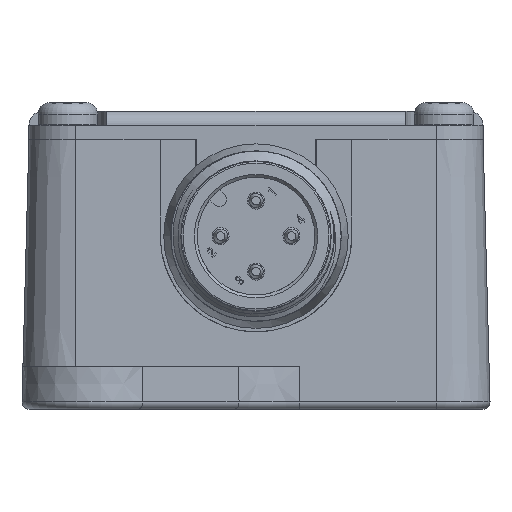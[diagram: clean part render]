
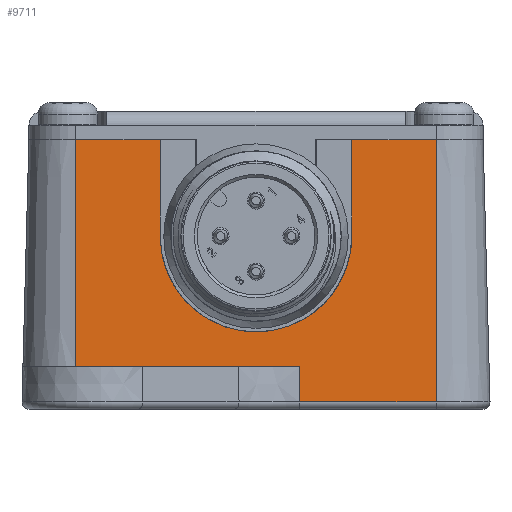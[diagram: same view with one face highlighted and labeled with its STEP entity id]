
A CAD part, left-side view. The second image highlights one B-rep face of the part: STEP entity #9711.
In plain terms, the highlighted planar face has unit normal (-1, 0, 0.026).
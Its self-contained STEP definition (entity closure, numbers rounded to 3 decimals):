
#26=ELLIPSE('',#10390,6.752,6.75);
#173=LINE('',#20466,#911);
#183=LINE('',#20501,#921);
#186=LINE('',#20509,#924);
#578=LINE('',#21569,#1316);
#589=LINE('',#21600,#1327);
#590=LINE('',#21602,#1328);
#597=LINE('',#21628,#1335);
#611=LINE('',#21659,#1349);
#615=LINE('',#21668,#1353);
#911=VECTOR('',#11625,1000.);
#921=VECTOR('',#11661,1000.);
#924=VECTOR('',#11670,1000.);
#1316=VECTOR('',#12682,1000.);
#1327=VECTOR('',#12709,1000.);
#1328=VECTOR('',#12712,1000.);
#1335=VECTOR('',#12735,1000.);
#1349=VECTOR('',#12773,1000.);
#1353=VECTOR('',#12787,1000.);
#1959=PLANE('',#10735);
#3709=ORIENTED_EDGE('',*,*,#5766,.T.);
#3710=ORIENTED_EDGE('',*,*,#5176,.T.);
#3711=ORIENTED_EDGE('',*,*,#5736,.T.);
#3712=ORIENTED_EDGE('',*,*,#5770,.F.);
#3713=ORIENTED_EDGE('',*,*,#5198,.F.);
#3714=ORIENTED_EDGE('',*,*,#5196,.F.);
#3715=ORIENTED_EDGE('',*,*,#5194,.F.);
#3716=ORIENTED_EDGE('',*,*,#5719,.F.);
#3717=ORIENTED_EDGE('',*,*,#5735,.T.);
#3718=ORIENTED_EDGE('',*,*,#5749,.T.);
#5176=EDGE_CURVE('',#6584,#6588,#173,.T.);
#5194=EDGE_CURVE('',#6594,#6601,#183,.F.);
#5196=EDGE_CURVE('',#6601,#6602,#26,.T.);
#5198=EDGE_CURVE('',#6602,#6596,#186,.F.);
#5719=EDGE_CURVE('',#6960,#6594,#578,.F.);
#5735=EDGE_CURVE('',#6960,#6972,#589,.T.);
#5736=EDGE_CURVE('',#6588,#6973,#590,.F.);
#5749=EDGE_CURVE('',#6972,#6983,#597,.F.);
#5766=EDGE_CURVE('',#6983,#6584,#611,.T.);
#5770=EDGE_CURVE('',#6596,#6973,#615,.F.);
#6584=VERTEX_POINT('',#20453);
#6588=VERTEX_POINT('',#20465);
#6594=VERTEX_POINT('',#20486);
#6596=VERTEX_POINT('',#20490);
#6601=VERTEX_POINT('',#20502);
#6602=VERTEX_POINT('',#20506);
#6960=VERTEX_POINT('',#21568);
#6972=VERTEX_POINT('',#21599);
#6973=VERTEX_POINT('',#21603);
#6983=VERTEX_POINT('',#21627);
#8243=EDGE_LOOP('',(#3709,#3710,#3711,#3712,#3713,#3714,#3715,#3716,#3717,
#3718));
#8919=FACE_BOUND('',#8243,.T.);
#9711=ADVANCED_FACE('',(#8919),#1959,.T.);
#10390=AXIS2_PLACEMENT_3D('',#20505,#11665,#11666);
#10735=AXIS2_PLACEMENT_3D('',#21667,#12785,#12786);
#11625=DIRECTION('',(0.,-1.,0.));
#11661=DIRECTION('',(0.026,0.,1.));
#11665=DIRECTION('',(-1.,0.,0.026));
#11666=DIRECTION('',(-0.026,0.,-1.));
#11670=DIRECTION('',(-0.026,0.,-1.));
#12682=DIRECTION('',(0.,1.,0.));
#12709=DIRECTION('',(-0.026,0.,-1.));
#12712=DIRECTION('',(-0.026,0.,-1.));
#12735=DIRECTION('',(0.,1.,0.));
#12773=DIRECTION('',(-0.026,0.,-1.));
#12785=DIRECTION('',(-1.,0.,0.026));
#12786=DIRECTION('',(0.026,0.,1.));
#12787=DIRECTION('',(0.,1.,0.));
#20453=CARTESIAN_POINT('',(-54.987,-3.056,0.513));
#20465=CARTESIAN_POINT('',(-54.987,-12.7,0.513));
#20466=CARTESIAN_POINT('',(-54.987,0.,0.513));
#20486=CARTESIAN_POINT('',(-54.502,6.75,19.));
#20490=CARTESIAN_POINT('',(-54.502,-6.75,19.));
#20501=CARTESIAN_POINT('',(-55.,6.75,0.));
#20502=CARTESIAN_POINT('',(-54.681,6.75,12.2));
#20505=CARTESIAN_POINT('',(-54.681,0.,12.2));
#20506=CARTESIAN_POINT('',(-54.681,-6.75,12.2));
#20509=CARTESIAN_POINT('',(-55.,-6.75,0.));
#21568=CARTESIAN_POINT('',(-54.502,12.7,19.));
#21569=CARTESIAN_POINT('',(-54.502,0.,19.));
#21599=CARTESIAN_POINT('',(-54.921,12.7,3.));
#21600=CARTESIAN_POINT('',(-55.,12.7,0.));
#21602=CARTESIAN_POINT('',(-55.,-12.7,0.));
#21603=CARTESIAN_POINT('',(-54.502,-12.7,19.));
#21627=CARTESIAN_POINT('',(-54.921,-3.056,3.));
#21628=CARTESIAN_POINT('',(-54.921,0.,3.));
#21659=CARTESIAN_POINT('',(-55.,-3.056,0.));
#21667=CARTESIAN_POINT('',(-55.,0.,0.));
#21668=CARTESIAN_POINT('',(-54.502,0.,19.));
